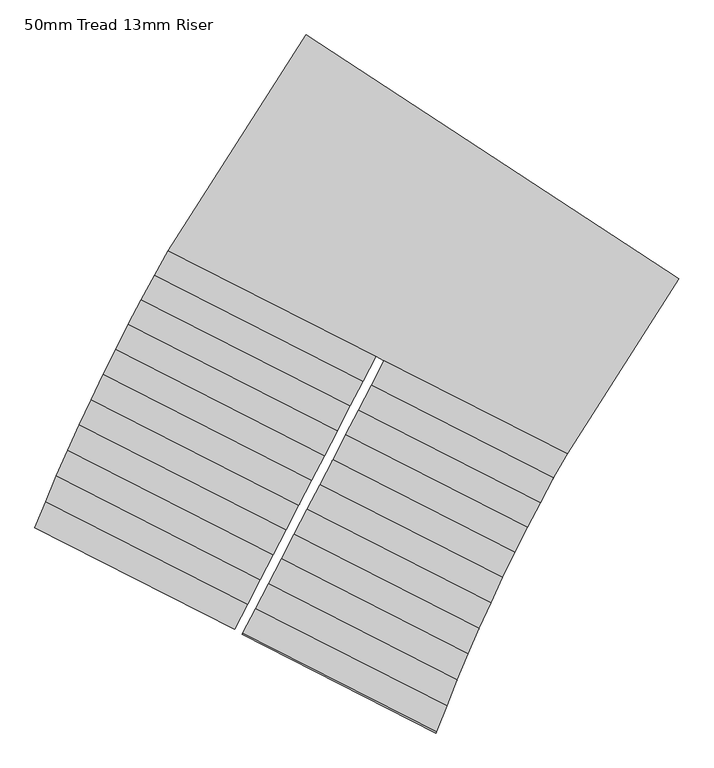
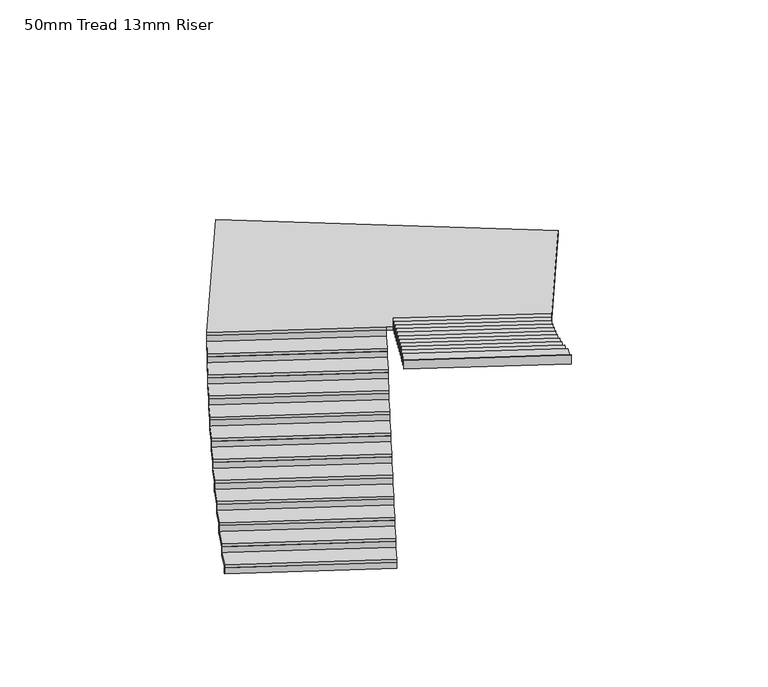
"""IFC4 building model written with IfcOpenShell, lengths in millimetres: stair flight geometry, 50mm Tread 13mm Riser."""

from ifc_helpers import new_model, si_unit, point, frame, frame_2d, origin, place, context, project, spatial, polyline, circle_curve, trimmed, segment, composite_curve, outline, extrude, source, transform, mapped, element, save


def stair_flight_50mm_tread_13mm_riser_3233b498(model_context):
    return source(origin(), model_context, "Body", "SweptSolid", [
        extrude(outline(composite_curve([segment(polyline([(7243.3997598, -26018.0316031), (7237.6463466, -26029.1292848), (5092.865947, -24939.2065624)]), True, "CONTINUOUS"), segment(trimmed(circle_curve(frame_2d((28463.2186017, -34366.1157481)), 25200.0), [point((5092.865947, -24939.2065624))], [point((5097.5624416, -24927.5717816))], False, "CARTESIAN"), True, "CONTINUOUS"), segment(polyline([(5097.5624416, -24927.5717816), (7243.3997598, -26018.0316031)]), True, "CONTINUOUS")], self_intersect=False)), frame((0.0, 0.0, -3600.0), z_axis=(0.0, 0.0, 1.0), x_axis=(1.0, 0.0, 0.0)), (0.0, 0.0, 1.0), 100.0),
        extrude(outline(composite_curve([segment(polyline([(5207.1231707, -24660.7551002), (7375.7282632, -25762.7849242), (7237.6463466, -26029.1292848), (5092.865947, -24939.2065624)]), True, "CONTINUOUS"), segment(trimmed(circle_curve(frame_2d((28463.2186017, -34366.1157481)), 25200.0), [point((5092.865947, -24939.2065624))], [point((5207.1231707, -24660.7551002))], False, "CARTESIAN"), True, "CONTINUOUS")], self_intersect=False)), frame((0.0, 0.0, -3500.0), z_axis=(0.0, 0.0, 1.0), x_axis=(1.0, 0.0, 0.0)), (0.0, 0.0, 1.0), 50.0),
        extrude(outline(composite_curve([segment(polyline([(7381.4816764, -25751.6872425), (7375.7282632, -25762.7849242), (5207.1231707, -24660.7551002)]), True, "CONTINUOUS"), segment(trimmed(circle_curve(frame_2d((28463.2186017, -34366.1157481)), 25200.0), [point((5207.1231707, -24660.7551002))], [point((5211.9536288, -24649.1883962))], False, "CARTESIAN"), True, "CONTINUOUS"), segment(polyline([(5211.9536288, -24649.1883962), (7381.4816764, -25751.6872425)]), True, "CONTINUOUS")], self_intersect=False)), frame((0.0, 0.0, -3500.0), z_axis=(0.0, 0.0, 1.0), x_axis=(1.0, 0.0, 0.0)), (0.0, 0.0, 1.0), 150.0),
        extrude(outline(composite_curve([segment(polyline([(5324.5912847, -24383.9353306), (7513.8101797, -25496.4405635), (7375.7282632, -25762.7849242), (5207.1231707, -24660.7551002)]), True, "CONTINUOUS"), segment(trimmed(circle_curve(frame_2d((28463.2186017, -34366.1157481)), 25200.0), [point((5207.1231707, -24660.7551002))], [point((5324.5912847, -24383.9353306))], False, "CARTESIAN"), True, "CONTINUOUS")], self_intersect=False)), frame((0.0, 0.0, -3350.0), z_axis=(0.0, 0.0, 1.0), x_axis=(1.0, 0.0, 0.0)), (0.0, 0.0, 1.0), 50.0),
        extrude(outline(composite_curve([segment(polyline([(7519.5635929, -25485.3428818), (7513.8101797, -25496.4405635), (5324.5912847, -24383.9353306)]), True, "CONTINUOUS"), segment(trimmed(circle_curve(frame_2d((28463.2186017, -34366.1157481)), 25200.0), [point((5324.5912847, -24383.9353306))], [point((5329.5553484, -24372.4365216))], False, "CARTESIAN"), True, "CONTINUOUS"), segment(polyline([(5329.5553484, -24372.4365216), (7519.5635929, -25485.3428818)]), True, "CONTINUOUS")], self_intersect=False)), frame((0.0, 0.0, -3350.0), z_axis=(0.0, 0.0, 1.0), x_axis=(1.0, 0.0, 0.0)), (0.0, 0.0, 1.0), 150.0),
        extrude(outline(composite_curve([segment(polyline([(5445.2623713, -24108.74323), (7651.8920962, -25230.0962028), (7513.8101797, -25496.4405635), (5324.5912847, -24383.9353306)]), True, "CONTINUOUS"), segment(trimmed(circle_curve(frame_2d((28463.2186017, -34366.1157481)), 25200.0), [point((5324.5912847, -24383.9353306))], [point((5445.2623713, -24108.74323))], False, "CARTESIAN"), True, "CONTINUOUS")], self_intersect=False)), frame((0.0, 0.0, -3200.0), z_axis=(0.0, 0.0, 1.0), x_axis=(1.0, 0.0, 0.0)), (0.0, 0.0, 1.0), 50.0),
        extrude(outline(composite_curve([segment(polyline([(7657.6455094, -25218.9985211), (7651.8920962, -25230.0962028), (5445.2623713, -24108.74323)]), True, "CONTINUOUS"), segment(trimmed(circle_curve(frame_2d((28463.2186017, -34366.1157481)), 25200.0), [point((5445.2623713, -24108.74323))], [point((5450.3597409, -24097.3121637))], False, "CARTESIAN"), True, "CONTINUOUS"), segment(polyline([(5450.3597409, -24097.3121637), (7657.6455094, -25218.9985211)]), True, "CONTINUOUS")], self_intersect=False)), frame((0.0, 0.0, -3200.0), z_axis=(0.0, 0.0, 1.0), x_axis=(1.0, 0.0, 0.0)), (0.0, 0.0, 1.0), 150.0),
        extrude(outline(composite_curve([segment(polyline([(5569.1299073, -23835.1754835), (7789.9740128, -24963.7518422), (7651.8920962, -25230.0962028), (5445.2623713, -24108.74323)]), True, "CONTINUOUS"), segment(trimmed(circle_curve(frame_2d((28463.2186017, -34366.1157481)), 25200.0), [point((5445.2623713, -24108.74323))], [point((5569.1299073, -23835.1754835))], False, "CARTESIAN"), True, "CONTINUOUS")], self_intersect=False)), frame((0.0, 0.0, -3050.0), z_axis=(0.0, 0.0, 1.0), x_axis=(1.0, 0.0, 0.0)), (0.0, 0.0, 1.0), 50.0),
        extrude(outline(composite_curve([segment(polyline([(7795.727426, -24952.6541605), (7789.9740128, -24963.7518422), (5569.1299073, -23835.1754835)]), True, "CONTINUOUS"), segment(trimmed(circle_curve(frame_2d((28463.2186017, -34366.1157481)), 25200.0), [point((5569.1299073, -23835.1754835))], [point((5574.3603413, -23823.8120371))], False, "CARTESIAN"), True, "CONTINUOUS"), segment(polyline([(5574.3603413, -23823.8120371), (7795.727426, -24952.6541605)]), True, "CONTINUOUS")], self_intersect=False)), frame((0.0, 0.0, -3050.0), z_axis=(0.0, 0.0, 1.0), x_axis=(1.0, 0.0, 0.0)), (0.0, 0.0, 1.0), 150.0),
        extrude(outline(composite_curve([segment(polyline([(5696.1887507, -23563.2294781), (7928.0559293, -24697.4074815), (7789.9740128, -24963.7518422), (5569.1299073, -23835.1754835)]), True, "CONTINUOUS"), segment(trimmed(circle_curve(frame_2d((28463.2186017, -34366.1157481)), 25200.0), [point((5569.1299073, -23835.1754835))], [point((5696.1887507, -23563.2294781))], False, "CARTESIAN"), True, "CONTINUOUS")], self_intersect=False)), frame((0.0, 0.0, -2900.0), z_axis=(0.0, 0.0, 1.0), x_axis=(1.0, 0.0, 0.0)), (0.0, 0.0, 1.0), 50.0),
        extrude(outline(composite_curve([segment(polyline([(7933.8093425, -24686.3097998), (7928.0559293, -24697.4074815), (5696.1887507, -23563.2294781)]), True, "CONTINUOUS"), segment(trimmed(circle_curve(frame_2d((28463.2186017, -34366.1157481)), 25200.0), [point((5696.1887507, -23563.2294781))], [point((5701.5520644, -23551.9335578))], False, "CARTESIAN"), True, "CONTINUOUS"), segment(polyline([(5701.5520644, -23551.9335578), (7933.8093425, -24686.3097998)]), True, "CONTINUOUS")], self_intersect=False)), frame((0.0, 0.0, -2900.0), z_axis=(0.0, 0.0, 1.0), x_axis=(1.0, 0.0, 0.0)), (0.0, 0.0, 1.0), 150.0),
        extrude(outline(composite_curve([segment(polyline([(5826.4351287, -23292.9032965), (8066.1378458, -24431.0631208), (7928.0559293, -24697.4074815), (5696.1887507, -23563.2294781)]), True, "CONTINUOUS"), segment(trimmed(circle_curve(frame_2d((28463.2186017, -34366.1157481)), 25200.0), [point((5696.1887507, -23563.2294781))], [point((5826.4351287, -23292.9032965))], False, "CARTESIAN"), True, "CONTINUOUS")], self_intersect=False)), frame((0.0, 0.0, -2750.0), z_axis=(0.0, 0.0, 1.0), x_axis=(1.0, 0.0, 0.0)), (0.0, 0.0, 1.0), 50.0),
        extrude(outline(composite_curve([segment(polyline([(8071.891259, -24419.9654391), (8066.1378458, -24431.0631208), (5826.4351287, -23292.9032965)]), True, "CONTINUOUS"), segment(trimmed(circle_curve(frame_2d((28463.2186017, -34366.1157481)), 25200.0), [point((5826.4351287, -23292.9032965))], [point((5831.9311946, -23281.6748375))], False, "CARTESIAN"), True, "CONTINUOUS"), segment(polyline([(5831.9311946, -23281.6748375), (8071.891259, -24419.9654391)]), True, "CONTINUOUS")], self_intersect=False)), frame((0.0, 0.0, -2750.0), z_axis=(0.0, 0.0, 1.0), x_axis=(1.0, 0.0, 0.0)), (0.0, 0.0, 1.0), 150.0),
        extrude(outline(composite_curve([segment(polyline([(5959.8666306, -23024.1957137), (8204.2197624, -24164.7187602), (8066.1378458, -24431.0631208), (5826.4351287, -23292.9032965)]), True, "CONTINUOUS"), segment(trimmed(circle_curve(frame_2d((28463.2186017, -34366.1157481)), 25200.0), [point((5826.4351287, -23292.9032965))], [point((5959.8666306, -23024.1957137))], False, "CARTESIAN"), True, "CONTINUOUS")], self_intersect=False)), frame((0.0, 0.0, -2600.0), z_axis=(0.0, 0.0, 1.0), x_axis=(1.0, 0.0, 0.0)), (0.0, 0.0, 1.0), 50.0),
        extrude(outline(composite_curve([segment(polyline([(8209.9731756, -24153.6210785), (8204.2197624, -24164.7187602), (5959.8666306, -23024.1957137)]), True, "CONTINUOUS"), segment(trimmed(circle_curve(frame_2d((28463.2186017, -34366.1157481)), 25200.0), [point((5959.8666306, -23024.1957137))], [point((5965.4953778, -23013.0346799))], False, "CARTESIAN"), True, "CONTINUOUS"), segment(polyline([(5965.4953778, -23013.0346799), (8209.9731756, -24153.6210785)]), True, "CONTINUOUS")], self_intersect=False)), frame((0.0, 0.0, -2600.0), z_axis=(0.0, 0.0, 1.0), x_axis=(1.0, 0.0, 0.0)), (0.0, 0.0, 1.0), 150.0),
        extrude(outline(composite_curve([segment(polyline([(6096.4822021, -22757.1061938), (8342.3016789, -23898.3743995), (8204.2197624, -24164.7187602), (5959.8666306, -23024.1957137)]), True, "CONTINUOUS"), segment(trimmed(circle_curve(frame_2d((28463.2186017, -34366.1157481)), 25200.0), [point((5959.8666306, -23024.1957137))], [point((6096.4822021, -22757.1061938))], False, "CARTESIAN"), True, "CONTINUOUS")], self_intersect=False)), frame((0.0, 0.0, -2450.0), z_axis=(0.0, 0.0, 1.0), x_axis=(1.0, 0.0, 0.0)), (0.0, 0.0, 1.0), 50.0),
        extrude(outline(composite_curve([segment(polyline([(8348.0550921, -23887.2767178), (8342.3016789, -23898.3743995), (6096.4822021, -22757.1061938)]), True, "CONTINUOUS"), segment(trimmed(circle_curve(frame_2d((28463.2186017, -34366.1157481)), 25200.0), [point((6096.4822021, -22757.1061938))], [point((6102.2436159, -22746.0125779))], False, "CARTESIAN"), True, "CONTINUOUS"), segment(polyline([(6102.2436159, -22746.0125779), (8348.0550921, -23887.2767178)]), True, "CONTINUOUS")], self_intersect=False)), frame((0.0, 0.0, -2450.0), z_axis=(0.0, 0.0, 1.0), x_axis=(1.0, 0.0, 0.0)), (0.0, 0.0, 1.0), 150.0),
        extrude(outline(composite_curve([segment(polyline([(6236.282143, -22491.6348894), (8480.3835954, -23632.0300388), (8342.3016789, -23898.3743995), (6096.4822021, -22757.1061938)]), True, "CONTINUOUS"), segment(trimmed(circle_curve(frame_2d((28463.2186017, -34366.1157481)), 25200.0), [point((6096.4822021, -22757.1061938))], [point((6236.282143, -22491.6348894))], False, "CARTESIAN"), True, "CONTINUOUS")], self_intersect=False)), frame((0.0, 0.0, -2300.0), z_axis=(0.0, 0.0, 1.0), x_axis=(1.0, 0.0, 0.0)), (0.0, 0.0, 1.0), 50.0),
        extrude(outline(composite_curve([segment(polyline([(8486.1370086, -23620.9323571), (8480.3835954, -23632.0300388), (6236.282143, -22491.6348894)]), True, "CONTINUOUS"), segment(trimmed(circle_curve(frame_2d((28463.2186017, -34366.1157481)), 25200.0), [point((6236.282143, -22491.6348894))], [point((6242.1762655, -22480.6087125))], False, "CARTESIAN"), True, "CONTINUOUS"), segment(polyline([(6242.1762655, -22480.6087125), (8486.1370086, -23620.9323571)]), True, "CONTINUOUS")], self_intersect=False)), frame((0.0, 0.0, -2300.0), z_axis=(0.0, 0.0, 1.0), x_axis=(1.0, 0.0, 0.0)), (0.0, 0.0, 1.0), 150.0),
        extrude(outline(composite_curve([segment(polyline([(6379.2681084, -22227.7826413), (8618.465512, -23365.6856782), (8480.3835954, -23632.0300388), (6236.282143, -22491.6348894)]), True, "CONTINUOUS"), segment(trimmed(circle_curve(frame_2d((28463.2186017, -34366.1157481)), 25200.0), [point((6236.282143, -22491.6348894))], [point((6379.2681084, -22227.7826413))], False, "CARTESIAN"), True, "CONTINUOUS")], self_intersect=False)), frame((0.0, 0.0, -2150.0), z_axis=(0.0, 0.0, 1.0), x_axis=(1.0, 0.0, 0.0)), (0.0, 0.0, 1.0), 50.0),
        extrude(outline(composite_curve([segment(polyline([(8624.2189252, -23354.5879965), (8618.465512, -23365.6856782), (6379.2681084, -22227.7826413)]), True, "CONTINUOUS"), segment(trimmed(circle_curve(frame_2d((28463.2186017, -34366.1157481)), 25200.0), [point((6379.2681084, -22227.7826413))], [point((6385.2950378, -22216.8239536))], False, "CARTESIAN"), True, "CONTINUOUS"), segment(polyline([(6385.2950378, -22216.8239536), (8624.2189252, -23354.5879965)]), True, "CONTINUOUS")], self_intersect=False)), frame((0.0, 0.0, -2150.0), z_axis=(0.0, 0.0, 1.0), x_axis=(1.0, 0.0, 0.0)), (0.0, 0.0, 1.0), 150.0),
        extrude(outline(composite_curve([segment(polyline([(6525.4431115, -21965.5509809), (8756.5474285, -23099.3413175), (8618.465512, -23365.6856782), (6379.2681084, -22227.7826413)]), True, "CONTINUOUS"), segment(trimmed(circle_curve(frame_2d((28463.2186017, -34366.1157481)), 25200.0), [point((6379.2681084, -22227.7826413))], [point((6525.4431115, -21965.5509809))], False, "CARTESIAN"), True, "CONTINUOUS")], self_intersect=False)), frame((0.0, 0.0, -2000.0), z_axis=(0.0, 0.0, 1.0), x_axis=(1.0, 0.0, 0.0)), (0.0, 0.0, 1.0), 50.0),
        extrude(outline(composite_curve([segment(polyline([(8762.2103549, -23088.1976527), (8756.5474285, -23099.3413175), (6525.4431115, -21965.5509809)]), True, "CONTINUOUS"), segment(trimmed(circle_curve(frame_2d((28463.2186017, -34366.1157481)), 25200.0), [point((6525.4431115, -21965.5509809))], [point((6531.603003, -21954.6598612))], False, "CARTESIAN"), True, "CONTINUOUS"), segment(polyline([(6531.603003, -21954.6598612), (8762.2103549, -23088.1976527)]), True, "CONTINUOUS")], self_intersect=False)), frame((0.0, 0.0, -2000.0), z_axis=(0.0, 0.0, 1.0), x_axis=(1.0, 0.0, 0.0)), (0.0, 0.0, 1.0), 150.0),
        extrude(outline(composite_curve([segment(polyline([(10811.4275189, -24143.5789946), (8845.6996858, -23144.6462219), (8756.5474285, -23099.3413175), (6525.4431115, -21965.5509809)]), True, "CONTINUOUS"), segment(trimmed(circle_curve(frame_2d((28463.2186017, -34366.1157481)), 25200.0), [point((6525.4431115, -21965.5509809))], [point((8007.113091, -19649.1953048))], False, "CARTESIAN"), True, "CONTINUOUS"), segment(polyline([(8007.113091, -19649.1953048), (12010.6232883, -22268.7232659)]), True, "CONTINUOUS"), segment(trimmed(circle_curve(frame_2d((29284.4488792, -34638.3554793)), 21246.0078989), [point((12010.6232883, -22268.7232659))], [point((10811.4275189, -24143.5789946))], True, "CARTESIAN"), True, "CONTINUOUS")], self_intersect=False)), frame((0.0, 0.0, -1850.0), z_axis=(0.0, 0.0, 1.0), x_axis=(1.0, 0.0, 0.0)), (0.0, 0.0, 1.0), 50.0),
        extrude(outline(composite_curve([segment(polyline([(8839.9462726, -23155.7439036), (8845.6996858, -23144.6462219), (10811.4275189, -24143.5789946)]), True, "CONTINUOUS"), segment(trimmed(circle_curve(frame_2d((29284.4488792, -34638.3554793)), 21246.0078989), [point((10811.4275189, -24143.5789946))], [point((10805.2495746, -24154.4609404))], True, "CARTESIAN"), True, "CONTINUOUS"), segment(polyline([(10805.2495746, -24154.4609404), (8839.9462726, -23155.7439036)]), True, "CONTINUOUS")], self_intersect=False)), frame((0.0, 0.0, -1850.0), z_axis=(0.0, 0.0, 1.0), x_axis=(1.0, 0.0, 0.0)), (0.0, 0.0, 1.0), 150.0),
        extrude(outline(composite_curve([segment(polyline([(10664.9711296, -24405.6676617), (8707.6177693, -23410.9905826), (8845.6996858, -23144.6462219), (10811.4275189, -24143.5789946)]), True, "CONTINUOUS"), segment(trimmed(circle_curve(frame_2d((29284.4488792, -34638.3554793)), 21246.0078989), [point((10811.4275189, -24143.5789946))], [point((10664.9711296, -24405.6676617))], True, "CARTESIAN"), True, "CONTINUOUS")], self_intersect=False)), frame((0.0, 0.0, -1700.0), z_axis=(0.0, 0.0, 1.0), x_axis=(1.0, 0.0, 0.0)), (0.0, 0.0, 1.0), 50.0),
        extrude(outline(composite_curve([segment(polyline([(8701.8643561, -23422.0882643), (8707.6177693, -23410.9905826), (10664.9711296, -24405.6676617)]), True, "CONTINUOUS"), segment(trimmed(circle_curve(frame_2d((29284.4488792, -34638.3554793)), 21246.0078989), [point((10664.9711296, -24405.6676617))], [point((10658.9509028, -24416.6297555))], True, "CARTESIAN"), True, "CONTINUOUS"), segment(polyline([(10658.9509028, -24416.6297555), (8701.8643561, -23422.0882643)]), True, "CONTINUOUS")], self_intersect=False)), frame((0.0, 0.0, -1700.0), z_axis=(0.0, 0.0, 1.0), x_axis=(1.0, 0.0, 0.0)), (0.0, 0.0, 1.0), 150.0),
        extrude(outline(composite_curve([segment(polyline([(10522.2973079, -24669.6785332), (8569.5358527, -23677.3349433), (8707.6177693, -23410.9905826), (10664.9711296, -24405.6676617)]), True, "CONTINUOUS"), segment(trimmed(circle_curve(frame_2d((29284.4488792, -34638.3554793)), 21246.0078989), [point((10664.9711296, -24405.6676617))], [point((10522.2973079, -24669.6785332))], True, "CARTESIAN"), True, "CONTINUOUS")], self_intersect=False)), frame((0.0, 0.0, -1550.0), z_axis=(0.0, 0.0, 1.0), x_axis=(1.0, 0.0, 0.0)), (0.0, 0.0, 1.0), 50.0),
        extrude(outline(composite_curve([segment(polyline([(8563.7824396, -23688.432625), (8569.5358527, -23677.3349433), (10522.2973079, -24669.6785332)]), True, "CONTINUOUS"), segment(trimmed(circle_curve(frame_2d((29284.4488792, -34638.3554793)), 21246.0078989), [point((10522.2973079, -24669.6785332))], [point((10516.4345844, -24680.7206662))], True, "CARTESIAN"), True, "CONTINUOUS"), segment(polyline([(10516.4345844, -24680.7206662), (8563.7824396, -23688.432625)]), True, "CONTINUOUS")], self_intersect=False)), frame((0.0, 0.0, -1550.0), z_axis=(0.0, 0.0, 1.0), x_axis=(1.0, 0.0, 0.0)), (0.0, 0.0, 1.0), 150.0),
        extrude(outline(composite_curve([segment(polyline([(10383.4020016, -24935.6095499), (8431.4539362, -23943.6793039), (8569.5358527, -23677.3349433), (10522.2973079, -24669.6785332)]), True, "CONTINUOUS"), segment(trimmed(circle_curve(frame_2d((29284.4488792, -34638.3554793)), 21246.0078989), [point((10522.2973079, -24669.6785332))], [point((10383.4020016, -24935.6095499))], True, "CARTESIAN"), True, "CONTINUOUS")], self_intersect=False)), frame((0.0, 0.0, -1400.0), z_axis=(0.0, 0.0, 1.0), x_axis=(1.0, 0.0, 0.0)), (0.0, 0.0, 1.0), 50.0),
        extrude(outline(composite_curve([segment(polyline([(8425.700523, -23954.7769856), (8431.4539362, -23943.6793039), (10383.4020016, -24935.6095499)]), True, "CONTINUOUS"), segment(trimmed(circle_curve(frame_2d((29284.4488792, -34638.3554793)), 21246.0078989), [point((10383.4020016, -24935.6095499))], [point((10377.6966618, -24946.7316613))], True, "CARTESIAN"), True, "CONTINUOUS"), segment(polyline([(10377.6966618, -24946.7316613), (8425.700523, -23954.7769856)]), True, "CONTINUOUS")], self_intersect=False)), frame((0.0, 0.0, -1400.0), z_axis=(0.0, 0.0, 1.0), x_axis=(1.0, 0.0, 0.0)), (0.0, 0.0, 1.0), 150.0),
        extrude(outline(composite_curve([segment(polyline([(10248.2834241, -25203.4598039), (8293.3720197, -24210.0236646), (8431.4539362, -23943.6793039), (10383.4020016, -24935.6095499)]), True, "CONTINUOUS"), segment(trimmed(circle_curve(frame_2d((29284.4488792, -34638.3554793)), 21246.0078989), [point((10383.4020016, -24935.6095499))], [point((10248.2834241, -25203.4598039))], True, "CARTESIAN"), True, "CONTINUOUS")], self_intersect=False)), frame((0.0, 0.0, -1250.0), z_axis=(0.0, 0.0, 1.0), x_axis=(1.0, 0.0, 0.0)), (0.0, 0.0, 1.0), 50.0),
        extrude(outline(composite_curve([segment(polyline([(8287.6186065, -24221.1213463), (8293.3720197, -24210.0236646), (10248.2834241, -25203.4598039)]), True, "CONTINUOUS"), segment(trimmed(circle_curve(frame_2d((29284.4488792, -34638.3554793)), 21246.0078989), [point((10248.2834241, -25203.4598039))], [point((10242.7354426, -25214.6618808))], True, "CARTESIAN"), True, "CONTINUOUS"), segment(polyline([(10242.7354426, -25214.6618808), (8287.6186065, -24221.1213463)]), True, "CONTINUOUS")], self_intersect=False)), frame((0.0, 0.0, -1250.0), z_axis=(0.0, 0.0, 1.0), x_axis=(1.0, 0.0, 0.0)), (0.0, 0.0, 1.0), 150.0),
        extrude(outline(composite_curve([segment(polyline([(10116.9420491, -25473.229536), (8155.2901031, -24476.3680253), (8293.3720197, -24210.0236646), (10248.2834241, -25203.4598039)]), True, "CONTINUOUS"), segment(trimmed(circle_curve(frame_2d((29284.4488792, -34638.3554793)), 21246.0078989), [point((10248.2834241, -25203.4598039))], [point((10116.9420491, -25473.229536))], True, "CARTESIAN"), True, "CONTINUOUS")], self_intersect=False)), frame((0.0, 0.0, -1100.0), z_axis=(0.0, 0.0, 1.0), x_axis=(1.0, 0.0, 0.0)), (0.0, 0.0, 1.0), 50.0),
        extrude(outline(composite_curve([segment(polyline([(8149.53669, -24487.4657069), (8155.2901031, -24476.3680253), (10116.9420491, -25473.229536)]), True, "CONTINUOUS"), segment(trimmed(circle_curve(frame_2d((29284.4488792, -34638.3554793)), 21246.0078989), [point((10116.9420491, -25473.229536))], [point((10111.5514947, -25484.5116133))], True, "CARTESIAN"), True, "CONTINUOUS"), segment(polyline([(10111.5514947, -25484.5116133), (8149.53669, -24487.4657069)]), True, "CONTINUOUS")], self_intersect=False)), frame((0.0, 0.0, -1100.0), z_axis=(0.0, 0.0, 1.0), x_axis=(1.0, 0.0, 0.0)), (0.0, 0.0, 1.0), 150.0),
        extrude(outline(composite_curve([segment(polyline([(9989.380612, -25744.9201361), (8017.2081866, -24742.7123859), (8155.2901031, -24476.3680253), (10116.9420491, -25473.229536)]), True, "CONTINUOUS"), segment(trimmed(circle_curve(frame_2d((29284.4488792, -34638.3554793)), 21246.0078989), [point((10116.9420491, -25473.229536))], [point((9989.380612, -25744.9201361))], True, "CARTESIAN"), True, "CONTINUOUS")], self_intersect=False)), frame((0.0, 0.0, -950.0), z_axis=(0.0, 0.0, 1.0), x_axis=(1.0, 0.0, 0.0)), (0.0, 0.0, 1.0), 50.0),
        extrude(outline(composite_curve([segment(polyline([(8011.4547734, -24753.8100676), (8017.2081866, -24742.7123859), (9989.380612, -25744.9201361)]), True, "CONTINUOUS"), segment(trimmed(circle_curve(frame_2d((29284.4488792, -34638.3554793)), 21246.0078989), [point((9989.380612, -25744.9201361))], [point((9984.1476479, -25756.2822968))], True, "CARTESIAN"), True, "CONTINUOUS"), segment(polyline([(9984.1476479, -25756.2822968), (8011.4547734, -24753.8100676)]), True, "CONTINUOUS")], self_intersect=False)), frame((0.0, 0.0, -950.0), z_axis=(0.0, 0.0, 1.0), x_axis=(1.0, 0.0, 0.0)), (0.0, 0.0, 1.0), 150.0),
        extrude(outline(composite_curve([segment(polyline([(9865.6041181, -26018.5341479), (7879.1262701, -25009.0567466), (8017.2081866, -24742.7123859), (9989.380612, -25744.9201361)]), True, "CONTINUOUS"), segment(trimmed(circle_curve(frame_2d((29284.4488792, -34638.3554793)), 21246.0078989), [point((9989.380612, -25744.9201361))], [point((9865.6041181, -26018.5341479))], True, "CARTESIAN"), True, "CONTINUOUS")], self_intersect=False)), frame((0.0, 0.0, -800.0), z_axis=(0.0, 0.0, 1.0), x_axis=(1.0, 0.0, 0.0)), (0.0, 0.0, 1.0), 50.0),
        extrude(outline(composite_curve([segment(polyline([(7873.3728569, -25020.1544283), (7879.1262701, -25009.0567466), (9865.6041181, -26018.5341479)]), True, "CONTINUOUS"), segment(trimmed(circle_curve(frame_2d((29284.4488792, -34638.3554793)), 21246.0078989), [point((9865.6041181, -26018.5341479))], [point((9860.5290023, -26029.976523))], True, "CARTESIAN"), True, "CONTINUOUS"), segment(polyline([(9860.5290023, -26029.976523), (7873.3728569, -25020.1544283)]), True, "CONTINUOUS")], self_intersect=False)), frame((0.0, 0.0, -800.0), z_axis=(0.0, 0.0, 1.0), x_axis=(1.0, 0.0, 0.0)), (0.0, 0.0, 1.0), 150.0),
        extrude(outline(composite_curve([segment(polyline([(9745.6198577, -26294.075276), (7741.0443535, -25275.4011072), (7879.1262701, -25009.0567466), (9865.6041181, -26018.5341479)]), True, "CONTINUOUS"), segment(trimmed(circle_curve(frame_2d((29284.4488792, -34638.3554793)), 21246.0078989), [point((9865.6041181, -26018.5341479))], [point((9745.6198577, -26294.075276))], True, "CARTESIAN"), True, "CONTINUOUS")], self_intersect=False)), frame((0.0, 0.0, -650.0), z_axis=(0.0, 0.0, 1.0), x_axis=(1.0, 0.0, 0.0)), (0.0, 0.0, 1.0), 50.0),
        extrude(outline(composite_curve([segment(polyline([(7735.2909404, -25286.4987889), (7741.0443535, -25275.4011072), (9745.6198577, -26294.075276)]), True, "CONTINUOUS"), segment(trimmed(circle_curve(frame_2d((29284.4488792, -34638.3554793)), 21246.0078989), [point((9745.6198577, -26294.075276))], [point((9740.7029438, -26305.5980453))], True, "CARTESIAN"), True, "CONTINUOUS"), segment(polyline([(9740.7029438, -26305.5980453), (7735.2909404, -25286.4987889)]), True, "CONTINUOUS")], self_intersect=False)), frame((0.0, 0.0, -650.0), z_axis=(0.0, 0.0, 1.0), x_axis=(1.0, 0.0, 0.0)), (0.0, 0.0, 1.0), 150.0),
        extrude(outline(composite_curve([segment(polyline([(9629.437428, -26571.5483976), (7602.962437, -25541.7454679), (7741.0443535, -25275.4011072), (9745.6198577, -26294.075276)]), True, "CONTINUOUS"), segment(trimmed(circle_curve(frame_2d((29284.4488792, -34638.3554793)), 21246.0078989), [point((9745.6198577, -26294.075276))], [point((9629.437428, -26571.5483976))], True, "CARTESIAN"), True, "CONTINUOUS")], self_intersect=False)), frame((0.0, 0.0, -500.0), z_axis=(0.0, 0.0, 1.0), x_axis=(1.0, 0.0, 0.0)), (0.0, 0.0, 1.0), 50.0),
        extrude(outline(composite_curve([segment(polyline([(7597.2090238, -25552.8431496), (7602.962437, -25541.7454679), (9629.437428, -26571.5483976)]), True, "CONTINUOUS"), segment(trimmed(circle_curve(frame_2d((29284.4488792, -34638.3554793)), 21246.0078989), [point((9629.437428, -26571.5483976))], [point((9624.6791663, -26583.1517899))], True, "CARTESIAN"), True, "CONTINUOUS"), segment(polyline([(9624.6791663, -26583.1517899), (7597.2090238, -25552.8431496)]), True, "CONTINUOUS")], self_intersect=False)), frame((0.0, 0.0, -500.0), z_axis=(0.0, 0.0, 1.0), x_axis=(1.0, 0.0, 0.0)), (0.0, 0.0, 1.0), 150.0),
        extrude(outline(composite_curve([segment(polyline([(9517.068762, -26850.9595767), (7464.8805205, -25808.0898286), (7602.962437, -25541.7454679), (9629.437428, -26571.5483976)]), True, "CONTINUOUS"), segment(trimmed(circle_curve(frame_2d((29284.4488792, -34638.3554793)), 21246.0078989), [point((9629.437428, -26571.5483976))], [point((9517.068762, -26850.9595767))], True, "CARTESIAN"), True, "CONTINUOUS")], self_intersect=False)), frame((0.0, 0.0, -350.0), z_axis=(0.0, 0.0, 1.0), x_axis=(1.0, 0.0, 0.0)), (0.0, 0.0, 1.0), 50.0),
        extrude(outline(composite_curve([segment(polyline([(7459.1271073, -25819.1875103), (7464.8805205, -25808.0898286), (9517.068762, -26850.9595767)]), True, "CONTINUOUS"), segment(trimmed(circle_curve(frame_2d((29284.4488792, -34638.3554793)), 21246.0078989), [point((9517.068762, -26850.9595767))], [point((9512.469701, -26862.6438708))], True, "CARTESIAN"), True, "CONTINUOUS"), segment(polyline([(9512.469701, -26862.6438708), (7459.1271073, -25819.1875103)]), True, "CONTINUOUS")], self_intersect=False)), frame((0.0, 0.0, -350.0), z_axis=(0.0, 0.0, 1.0), x_axis=(1.0, 0.0, 0.0)), (0.0, 0.0, 1.0), 150.0),
        extrude(outline(composite_curve([segment(polyline([(7321.0451908, -26085.5318709), (7326.7986039, -26074.4341892), (9408.5281654, -27132.316083)]), True, "CONTINUOUS"), segment(trimmed(circle_curve(frame_2d((29284.4488792, -34638.3554793)), 21246.0078989), [point((9408.5281654, -27132.316083))], [point((9404.0889532, -27144.0816082))], True, "CARTESIAN"), True, "CONTINUOUS"), segment(polyline([(9404.0889532, -27144.0816082), (7321.0451908, -26085.5318709)]), True, "CONTINUOUS")], self_intersect=False)), frame((0.0, 0.0, -200.0), z_axis=(0.0, 0.0, 1.0), x_axis=(1.0, 0.0, 0.0)), (0.0, 0.0, 1.0), 150.0),
        extrude(outline(composite_curve([segment(polyline([(9408.5281654, -27132.316083), (7326.7986039, -26074.4341892), (7464.8805205, -25808.0898286), (9517.068762, -26850.9595767)]), True, "CONTINUOUS"), segment(trimmed(circle_curve(frame_2d((29284.4488792, -34638.3554793)), 21246.0078989), [point((9517.068762, -26850.9595767))], [point((9408.5281654, -27132.316083))], True, "CARTESIAN"), True, "CONTINUOUS")], self_intersect=False)), frame((0.0, 0.0, -200.0), z_axis=(0.0, 0.0, 1.0), x_axis=(1.0, 0.0, 0.0)), (0.0, 0.0, 1.0), 50.0),
    ])


if __name__ == "__main__":
    model = new_model("IFC4")
    model_context = context("Model", 3, world=origin())
    ifc_project = project(units=[si_unit("LENGTHUNIT", "METRE", prefix="MILLI")], contexts=[model_context])
    site = spatial("IfcSite", under=ifc_project)
    building = spatial("IfcBuilding", under=site)
    placement = place(None, origin())
    stair_flight_50mm_tread_13mm_riser_shape = stair_flight_50mm_tread_13mm_riser_3233b498(model_context)
    element("IfcStairFlight", 1, ObjectType="50mm Tread 13mm Riser", at=placement, inside=building, context=model_context, shape_type="MappedRepresentation", body=[
        mapped(stair_flight_50mm_tread_13mm_riser_shape, transform((0.0, 0.0, 0.0), x_axis=(1.0, 0.0, 0.0), y_axis=(0.0, 1.0, 0.0), z_axis=(0.0, 0.0, 1.0))),
    ])
    save(model, "model.ifc")
